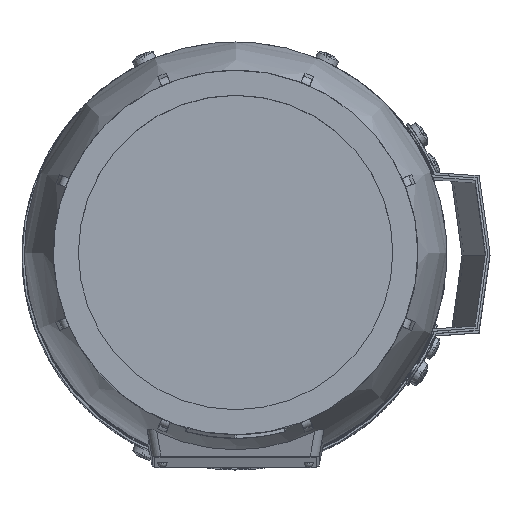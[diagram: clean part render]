
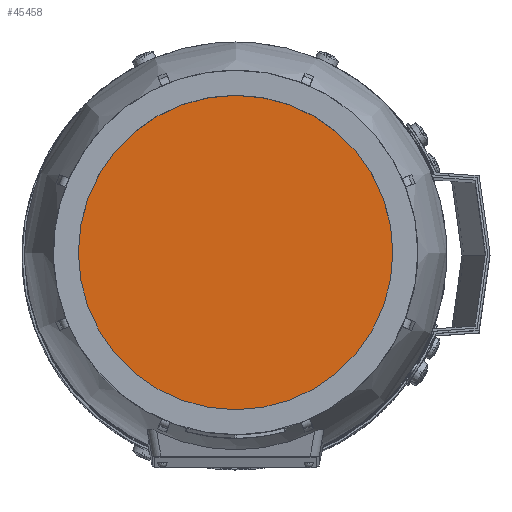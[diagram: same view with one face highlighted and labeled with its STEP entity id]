
A CAD part, top view. The second image highlights one B-rep face of the part: STEP entity #45458.
In plain terms, the highlighted planar face has unit normal (0, 0, 1) as drawn and (0, 1, 0) by its records, which use the part's own axes.
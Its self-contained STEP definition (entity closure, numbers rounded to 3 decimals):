
#9537=ORIENTED_EDGE('',*,*,#23275,.F.);
#23275=EDGE_CURVE('',#30144,#30144,#34771,.T.);
#30144=VERTEX_POINT('',#65603);
#34771=CIRCLE('',#47946,67.736);
#36847=EDGE_LOOP('',(#9537));
#40155=FACE_BOUND('',#36847,.T.);
#43481=PLANE('',#47945);
#45458=ADVANCED_FACE('',(#40155),#43481,.F.);
#47945=AXIS2_PLACEMENT_3D('',#65601,#52436,#52437);
#47946=AXIS2_PLACEMENT_3D('',#65602,#52438,#52439);
#52436=DIRECTION('',(0.,-1.,0.));
#52437=DIRECTION('',(0.,0.,-1.));
#52438=DIRECTION('',(0.,-1.,0.));
#52439=DIRECTION('',(0.,0.,-1.));
#65601=CARTESIAN_POINT('',(0.,154.,0.));
#65602=CARTESIAN_POINT('',(0.,154.,0.));
#65603=CARTESIAN_POINT('',(0.,154.,-67.736));
